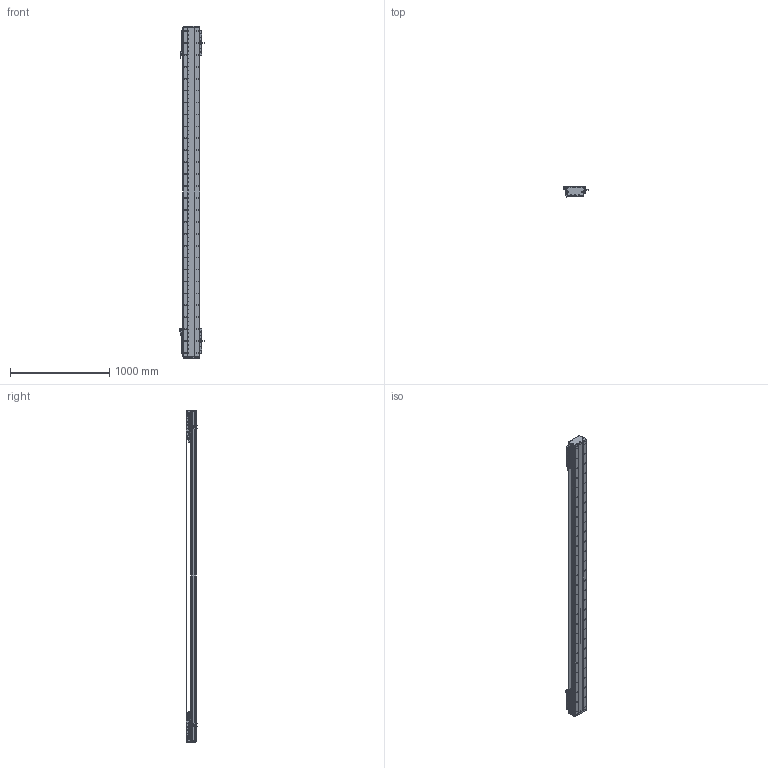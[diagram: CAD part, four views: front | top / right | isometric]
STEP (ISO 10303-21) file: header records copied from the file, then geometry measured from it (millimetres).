
FILE_DESCRIPTION (( 'STEP AP203' ), '1' );
FILE_NAME ('DA-C165-2-C3-T2720-C010-0.2 直线电机.STEP', '2023-06-13T09:14:31', ( '微软用户' ), ( '微软中国' ), 'SwSTEP 2.0', 'SolidWorks 2019', '' );
FILE_SCHEMA (( 'CONFIG_CONTROL_DESIGN' ));
Length unit declared in the file: millimetre
Products named in the file (22): 葩璃 PM-Y45^DA-C165-C3-T-C010-0.2-N 眻盄萇儂; 复件 六角薄螺母 M3^DA-C165-C3-T-C010-0.2-N 直线电机_GB_FASTENER_NUT_STNAB M3-C; DA-C165-2-C3-T2720-C010-0.2 眻盄萇儂; 复件 DA165-GDYK-00 钢带压块^复件 CU165钢带组件_DA-C165-C3-T-C010-0.2-N 直线电机; 珨极趙賑雄怢啣C3-wf; 复件 DMA-010-0.2 读数头^DA-C165-C3-T-C010-0.2-N 直线电机; 复件 CU165 底座^IU-CU165-L 底座导轨_L3300; 复件 DA165-GD-1860-002-00 钢带盖板^复件 CU165钢带组件_DA-C165-C3-T-C010-0.2-N 直线电机; 复件 DA165-GYP-00 光电感应片^DA-C165-C3-T-C010-0.2-N 直线电机; 复件 DA165-GD-DG-H-00 端盖^复件 CU165钢带组件_DA-C165-C3-T-C010-0.2-N 直线电机; 复件 DA165-GDLK-00 钢带拉块^复件 CU165钢带组件_DA-C165-C3-T-C010-0.2-N 直线电机; 复件 DKW-HXJ-JY-00 缓冲橡胶^DA-C165-C3-T-C010-0.2-N 直线电机; 复件 XD-U-02L 磁栅尺^DA-C165-C3-T-C010-0.2-N 直线电机_T; 葩璃 CKM01-W075-TRL^DA-C165-C3-T-C010-0.2-N 眻盄萇儂; IU-CU165-L 菁釱絳寢; 复件 66338-1000-006-00 光电感应块^DA-C165-C3-T-C010-0.2-N 直线电机; 葩璃 DA95-GT-T-00^IU-CU165-L 菁釱絳寢_T; 复件 DA95-HXJ-00 缓冲橡胶^DA-C165-C3-T-C010-0.2-N 直线电机; 复件 CU165钢带组件^DA-C165-C3-T-C010-0.2-N 直线电机; 葩璃 PM-T45^DA-C165-C3-T-C010-0.2-N 眻盄萇儂; 葩璃 CKM03-W075-C1C2-TP-3.0^DA-C165-C3-T-C010-0.2-N 眻盄萇儂; 复件 DA126-GYP-ZJ-00 中间光电感应片^DA-C165-C3-T-C010-0.2-N 直线电机
Assembly tree (45 placements, depth 3):
  DA-C165-2-C3-T2720-C010-0.2 眻盄萇儂
    IU-CU165-L 菁釱絳寢
      复件 CU165 底座^IU-CU165-L 底座导轨_L3300
      葩璃 DA95-GT-T-00^IU-CU165-L 菁釱絳寢_T  x4
    复件 XD-U-02L 磁栅尺^DA-C165-C3-T-C010-0.2-N 直线电机_T
    葩璃 PM-T45^DA-C165-C3-T-C010-0.2-N 眻盄萇儂  x4
    葩璃 CKM01-W075-TRL^DA-C165-C3-T-C010-0.2-N 眻盄萇儂
    复件 CU165钢带组件^DA-C165-C3-T-C010-0.2-N 直线电机
      复件 DA165-GD-DG-H-00 端盖^复件 CU165钢带组件_DA-C165-C3-T-C010-0.2-N 直线电机  x2
      复件 DA165-GDYK-00 钢带压块^复件 CU165钢带组件_DA-C165-C3-T-C010-0.2-N 直线电机  x2
      复件 DA165-GD-1860-002-00 钢带盖板^复件 CU165钢带组件_DA-C165-C3-T-C010-0.2-N 直线电机
      复件 DA165-GDLK-00 钢带拉块^复件 CU165钢带组件_DA-C165-C3-T-C010-0.2-N 直线电机  x2
    复件 DA95-HXJ-00 缓冲橡胶^DA-C165-C3-T-C010-0.2-N 直线电机  x4
    复件 DMA-010-0.2 读数头^DA-C165-C3-T-C010-0.2-N 直线电机  x2
    复件 DA165-GYP-00 光电感应片^DA-C165-C3-T-C010-0.2-N 直线电机  x2
    复件 66338-1000-006-00 光电感应块^DA-C165-C3-T-C010-0.2-N 直线电机
    葩璃 PM-Y45^DA-C165-C3-T-C010-0.2-N 眻盄萇儂
    复件 DA126-GYP-ZJ-00 中间光电感应片^DA-C165-C3-T-C010-0.2-N 直线电机
    葩璃 CKM03-W075-C1C2-TP-3.0^DA-C165-C3-T-C010-0.2-N 眻盄萇儂  x2
    复件 DKW-HXJ-JY-00 缓冲橡胶^DA-C165-C3-T-C010-0.2-N 直线电机  x2
    复件 六角薄螺母 M3^DA-C165-C3-T-C010-0.2-N 直线电机_GB_FASTENER_NUT_STNAB M3-C  x8
    珨极趙賑雄怢啣C3-wf  x2
Bounding box: 247.2 x 111.45 x 3340 mm (x, y, z)
Volume: 20665707.9 mm3; surface area: 5963405.6 mm2
Topology: 121 solids, 221 shells, 6925 faces, 19280 edges, 12066 vertices
Faces by surface type: cylinder 3814, plane 2043, cone 980, torus 80, sphere 8
Entity records: 166824 total; most frequent: CARTESIAN_POINT 46231, ORIENTED_EDGE 25144, DIRECTION 24174, EDGE_CURVE 12572, AXIS2_PLACEMENT_3D 9265, VERTEX_POINT 8220, EDGE_LOOP 5782, LINE 5644
